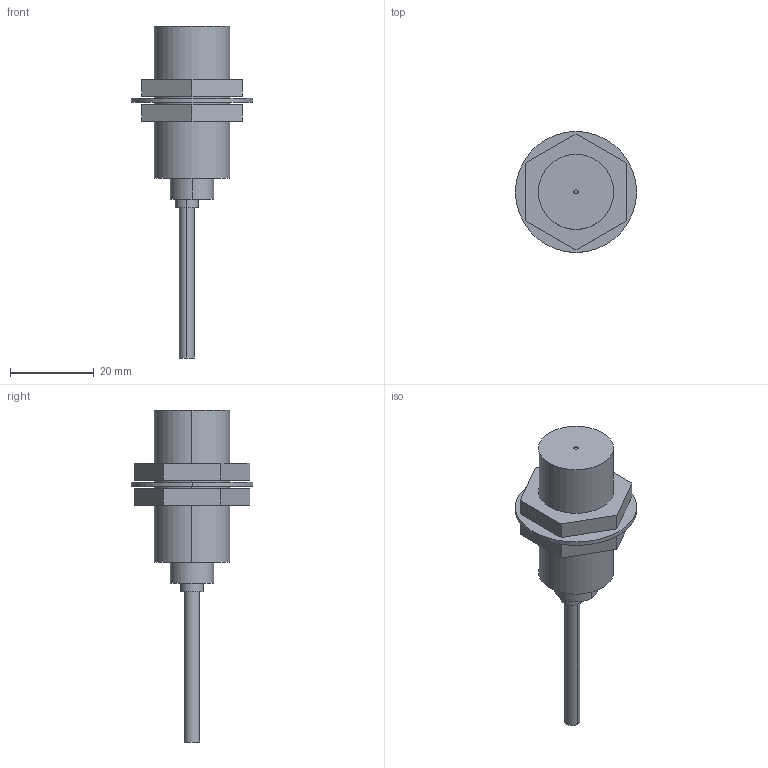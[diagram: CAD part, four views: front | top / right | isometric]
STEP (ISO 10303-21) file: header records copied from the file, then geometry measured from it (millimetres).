
FILE_DESCRIPTION (( 'STEP AP203' ), '1' );
FILE_NAME ('GX-18MU.STEP', '2005-11-09T07:31:20', ( '' ), ( '' ), 'SwSTEP 2.0', 'SolidWorks 2004073', '' );
FILE_SCHEMA (( 'CONFIG_CONTROL_DESIGN' ));
Length unit declared in the file: millimetre
Products named in the file (1): GX-18MU
Bounding box: 29 x 29 x 79.5 mm (x, y, z)
Volume: 12487.4 mm3; surface area: 6233.6 mm2
Topology: 4 solids, 4 shells, 45 faces, 96 edges, 64 vertices
Faces by surface type: plane 25, cylinder 20
Entity records: 1313 total; most frequent: DIRECTION 228, CARTESIAN_POINT 206, ORIENTED_EDGE 192, EDGE_CURVE 96, AXIS2_PLACEMENT_3D 86, VERTEX_POINT 64, VECTOR 56, LINE 56
